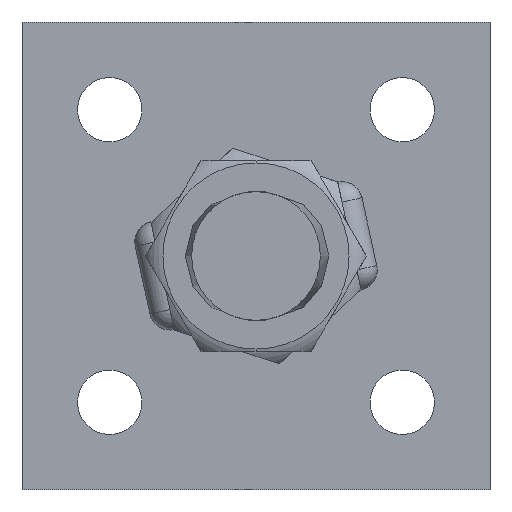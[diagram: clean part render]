
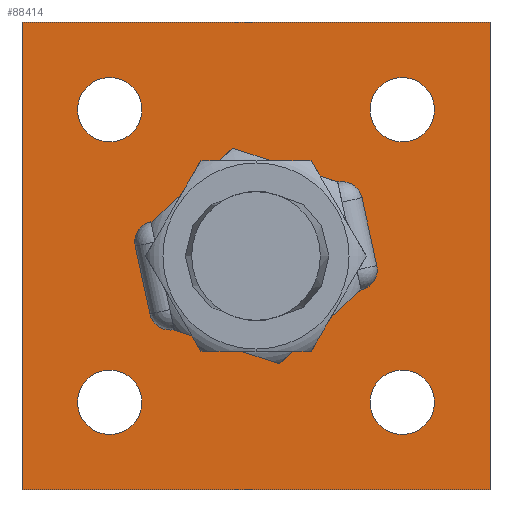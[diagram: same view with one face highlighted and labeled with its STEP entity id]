
A CAD part, front view. The second image highlights one B-rep face of the part: STEP entity #88414.
In plain terms, the highlighted planar face has unit normal (0, -1, 0).
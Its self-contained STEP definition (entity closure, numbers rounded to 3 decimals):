
#658 = ORIENTED_EDGE ( 'NONE', *, *, #51375, .F. ) ;
#1219 = AXIS2_PLACEMENT_3D ( 'NONE', #26431, #48462, #11854 ) ;
#1855 = VERTEX_POINT ( 'NONE', #18771 ) ;
#2343 = VECTOR ( 'NONE', #38607, 1000. ) ;
#2745 = EDGE_LOOP ( 'NONE', ( #49948, #21133 ) ) ;
#5186 = AXIS2_PLACEMENT_3D ( 'NONE', #54168, #82422, #18458 ) ;
#6210 = PLANE ( 'NONE',  #1219 ) ;
#6906 = VERTEX_POINT ( 'NONE', #27991 ) ;
#7850 = CARTESIAN_POINT ( 'NONE',  ( -40., 0., -40. ) ) ;
#7963 = EDGE_CURVE ( 'NONE', #64204, #16227, #14710, .T. ) ;
#9027 = DIRECTION ( 'NONE',  ( 1., 0., 0. ) ) ;
#9815 = DIRECTION ( 'NONE',  ( 0., 1., 0. ) ) ;
#10614 = EDGE_LOOP ( 'NONE', ( #24321, #73428 ) ) ;
#11020 = CARTESIAN_POINT ( 'NONE',  ( -25., 0., -25. ) ) ;
#11854 = DIRECTION ( 'NONE',  ( 0., 0., 1. ) ) ;
#14051 = EDGE_CURVE ( 'NONE', #6906, #66809, #82371, .T. ) ;
#14341 = CARTESIAN_POINT ( 'NONE',  ( -25., 0., -19.5 ) ) ;
#14710 = CIRCLE ( 'NONE', #23172, 11.5 ) ;
#14939 = CARTESIAN_POINT ( 'NONE',  ( 0., 0., 0. ) ) ;
#14952 = CARTESIAN_POINT ( 'NONE',  ( -40., 0., -40. ) ) ;
#16227 = VERTEX_POINT ( 'NONE', #66977 ) ;
#17377 = ORIENTED_EDGE ( 'NONE', *, *, #14051, .F. ) ;
#18458 = DIRECTION ( 'NONE',  ( 0., 0., 1. ) ) ;
#18771 = CARTESIAN_POINT ( 'NONE',  ( 25., 0., -30.5 ) ) ;
#19361 = FACE_BOUND ( 'NONE', #56464, .T. ) ;
#19472 = AXIS2_PLACEMENT_3D ( 'NONE', #58860, #65994, #87425 ) ;
#20483 = CIRCLE ( 'NONE', #19472, 5.5 ) ;
#21133 = ORIENTED_EDGE ( 'NONE', *, *, #86142, .T. ) ;
#21168 = ORIENTED_EDGE ( 'NONE', *, *, #46324, .F. ) ;
#22406 = DIRECTION ( 'NONE',  ( 0., 0., 1. ) ) ;
#23172 = AXIS2_PLACEMENT_3D ( 'NONE', #14939, #64629, #64316 ) ;
#23230 = CARTESIAN_POINT ( 'NONE',  ( 25., 0., 25. ) ) ;
#23330 = ORIENTED_EDGE ( 'NONE', *, *, #29851, .T. ) ;
#23807 = FACE_BOUND ( 'NONE', #2745, .T. ) ;
#23909 = DIRECTION ( 'NONE',  ( 0., 0., 1. ) ) ;
#24073 = CARTESIAN_POINT ( 'NONE',  ( -25., 0., -30.5 ) ) ;
#24321 = ORIENTED_EDGE ( 'NONE', *, *, #55033, .T. ) ;
#24707 = DIRECTION ( 'NONE',  ( 0., 0., 1. ) ) ;
#26431 = CARTESIAN_POINT ( 'NONE',  ( 0., 0., 0. ) ) ;
#27991 = CARTESIAN_POINT ( 'NONE',  ( 40., 0., 40. ) ) ;
#28748 = VECTOR ( 'NONE', #22406, 1000. ) ;
#29405 = ORIENTED_EDGE ( 'NONE', *, *, #76521, .F. ) ;
#29851 = EDGE_CURVE ( 'NONE', #52852, #50592, #78789, .T. ) ;
#29935 = AXIS2_PLACEMENT_3D ( 'NONE', #37357, #52293, #58490 ) ;
#30191 = DIRECTION ( 'NONE',  ( 0., 0., 1. ) ) ;
#33880 = CARTESIAN_POINT ( 'NONE',  ( -40., 0., -40. ) ) ;
#34296 = DIRECTION ( 'NONE',  ( 0., 0., 1. ) ) ;
#35235 = VERTEX_POINT ( 'NONE', #58034 ) ;
#35497 = ORIENTED_EDGE ( 'NONE', *, *, #36076, .T. ) ;
#35969 = CIRCLE ( 'NONE', #46819, 11.5 ) ;
#36076 = EDGE_CURVE ( 'NONE', #50592, #52852, #76499, .T. ) ;
#36146 = ORIENTED_EDGE ( 'NONE', *, *, #86694, .T. ) ;
#37151 = FACE_BOUND ( 'NONE', #10614, .T. ) ;
#37357 = CARTESIAN_POINT ( 'NONE',  ( -25., 0., 25. ) ) ;
#37514 = DIRECTION ( 'NONE',  ( 0., 1., 0. ) ) ;
#38246 = CIRCLE ( 'NONE', #5186, 5.5 ) ;
#38607 = DIRECTION ( 'NONE',  ( 0., 0., -1. ) ) ;
#38684 = CARTESIAN_POINT ( 'NONE',  ( -25., 0., -25. ) ) ;
#39501 = VERTEX_POINT ( 'NONE', #80862 ) ;
#40546 = AXIS2_PLACEMENT_3D ( 'NONE', #11020, #82128, #34296 ) ;
#40860 = ORIENTED_EDGE ( 'NONE', *, *, #84779, .T. ) ;
#41027 = AXIS2_PLACEMENT_3D ( 'NONE', #52190, #67374, #23909 ) ;
#43181 = LINE ( 'NONE', #14952, #28748 ) ;
#44275 = VECTOR ( 'NONE', #9027, 1000. ) ;
#46324 = EDGE_CURVE ( 'NONE', #82417, #35235, #43181, .T. ) ;
#46819 = AXIS2_PLACEMENT_3D ( 'NONE', #89963, #61411, #47438 ) ;
#47344 = VECTOR ( 'NONE', #50081, 1000. ) ;
#47438 = DIRECTION ( 'NONE',  ( 0., 0., 1. ) ) ;
#48462 = DIRECTION ( 'NONE',  ( 0., 1., 0. ) ) ;
#48564 = AXIS2_PLACEMENT_3D ( 'NONE', #51327, #65588, #30191 ) ;
#49948 = ORIENTED_EDGE ( 'NONE', *, *, #64402, .T. ) ;
#50075 = AXIS2_PLACEMENT_3D ( 'NONE', #38684, #9815, #24707 ) ;
#50081 = DIRECTION ( 'NONE',  ( -1., 0., 0. ) ) ;
#50482 = CARTESIAN_POINT ( 'NONE',  ( 25., 0., -19.5 ) ) ;
#50592 = VERTEX_POINT ( 'NONE', #70219 ) ;
#50731 = CARTESIAN_POINT ( 'NONE',  ( 0., 0., 11.5 ) ) ;
#51327 = CARTESIAN_POINT ( 'NONE',  ( 25., 0., -25. ) ) ;
#51375 = EDGE_CURVE ( 'NONE', #35235, #6906, #90950, .T. ) ;
#51708 = VERTEX_POINT ( 'NONE', #86640 ) ;
#52190 = CARTESIAN_POINT ( 'NONE',  ( 25., 0., 25. ) ) ;
#52293 = DIRECTION ( 'NONE',  ( 0., 1., 0. ) ) ;
#52852 = VERTEX_POINT ( 'NONE', #60815 ) ;
#52944 = EDGE_LOOP ( 'NONE', ( #35497, #23330 ) ) ;
#54168 = CARTESIAN_POINT ( 'NONE',  ( 25., 0., -25. ) ) ;
#54491 = EDGE_CURVE ( 'NONE', #86392, #66393, #80924, .T. ) ;
#55033 = EDGE_CURVE ( 'NONE', #66393, #86392, #84164, .T. ) ;
#56290 = CIRCLE ( 'NONE', #29935, 5.5 ) ;
#56464 = EDGE_LOOP ( 'NONE', ( #88733, #36146 ) ) ;
#58034 = CARTESIAN_POINT ( 'NONE',  ( -40., 0., 40. ) ) ;
#58490 = DIRECTION ( 'NONE',  ( 0., 0., 1. ) ) ;
#58860 = CARTESIAN_POINT ( 'NONE',  ( -25., 0., 25. ) ) ;
#60815 = CARTESIAN_POINT ( 'NONE',  ( 25., 0., 19.5 ) ) ;
#61122 = EDGE_LOOP ( 'NONE', ( #81890, #40860 ) ) ;
#61411 = DIRECTION ( 'NONE',  ( 0., 1., 0. ) ) ;
#61601 = FACE_BOUND ( 'NONE', #52944, .T. ) ;
#63794 = FACE_BOUND ( 'NONE', #61122, .T. ) ;
#64204 = VERTEX_POINT ( 'NONE', #50731 ) ;
#64316 = DIRECTION ( 'NONE',  ( 0., 0., 1. ) ) ;
#64402 = EDGE_CURVE ( 'NONE', #51708, #39501, #56290, .T. ) ;
#64629 = DIRECTION ( 'NONE',  ( 0., 1., 0. ) ) ;
#65588 = DIRECTION ( 'NONE',  ( 0., 1., 0. ) ) ;
#65994 = DIRECTION ( 'NONE',  ( 0., 1., 0. ) ) ;
#66393 = VERTEX_POINT ( 'NONE', #14341 ) ;
#66809 = VERTEX_POINT ( 'NONE', #78622 ) ;
#66977 = CARTESIAN_POINT ( 'NONE',  ( 0., 0., -11.5 ) ) ;
#67374 = DIRECTION ( 'NONE',  ( 0., 1., 0. ) ) ;
#67384 = LINE ( 'NONE', #7850, #47344 ) ;
#69506 = CIRCLE ( 'NONE', #48564, 5.5 ) ;
#70219 = CARTESIAN_POINT ( 'NONE',  ( 25., 0., 30.5 ) ) ;
#70465 = FACE_OUTER_BOUND ( 'NONE', #75221, .T. ) ;
#73234 = DIRECTION ( 'NONE',  ( 0., 0., 1. ) ) ;
#73428 = ORIENTED_EDGE ( 'NONE', *, *, #54491, .T. ) ;
#75221 = EDGE_LOOP ( 'NONE', ( #17377, #658, #21168, #29405 ) ) ;
#76499 = CIRCLE ( 'NONE', #83348, 5.5 ) ;
#76521 = EDGE_CURVE ( 'NONE', #66809, #82417, #67384, .T. ) ;
#77589 = EDGE_CURVE ( 'NONE', #84965, #1855, #69506, .T. ) ;
#78622 = CARTESIAN_POINT ( 'NONE',  ( 40., 0., -40. ) ) ;
#78789 = CIRCLE ( 'NONE', #41027, 5.5 ) ;
#79504 = CARTESIAN_POINT ( 'NONE',  ( -40., 0., 40. ) ) ;
#80537 = CARTESIAN_POINT ( 'NONE',  ( 40., 0., -40. ) ) ;
#80862 = CARTESIAN_POINT ( 'NONE',  ( -25., 0., 19.5 ) ) ;
#80924 = CIRCLE ( 'NONE', #50075, 5.5 ) ;
#81890 = ORIENTED_EDGE ( 'NONE', *, *, #7963, .T. ) ;
#82128 = DIRECTION ( 'NONE',  ( 0., 1., 0. ) ) ;
#82371 = LINE ( 'NONE', #80537, #2343 ) ;
#82417 = VERTEX_POINT ( 'NONE', #33880 ) ;
#82422 = DIRECTION ( 'NONE',  ( 0., 1., 0. ) ) ;
#83348 = AXIS2_PLACEMENT_3D ( 'NONE', #23230, #37514, #73234 ) ;
#84164 = CIRCLE ( 'NONE', #40546, 5.5 ) ;
#84779 = EDGE_CURVE ( 'NONE', #16227, #64204, #35969, .T. ) ;
#84965 = VERTEX_POINT ( 'NONE', #50482 ) ;
#86142 = EDGE_CURVE ( 'NONE', #39501, #51708, #20483, .T. ) ;
#86392 = VERTEX_POINT ( 'NONE', #24073 ) ;
#86640 = CARTESIAN_POINT ( 'NONE',  ( -25., 0., 30.5 ) ) ;
#86694 = EDGE_CURVE ( 'NONE', #1855, #84965, #38246, .T. ) ;
#87425 = DIRECTION ( 'NONE',  ( 0., 0., 1. ) ) ;
#88414 = ADVANCED_FACE ( 'NONE', ( #23807, #61601, #19361, #37151, #63794, #70465 ), #6210, .F. ) ;
#88733 = ORIENTED_EDGE ( 'NONE', *, *, #77589, .T. ) ;
#89963 = CARTESIAN_POINT ( 'NONE',  ( 0., 0., 0. ) ) ;
#90950 = LINE ( 'NONE', #79504, #44275 ) ;
